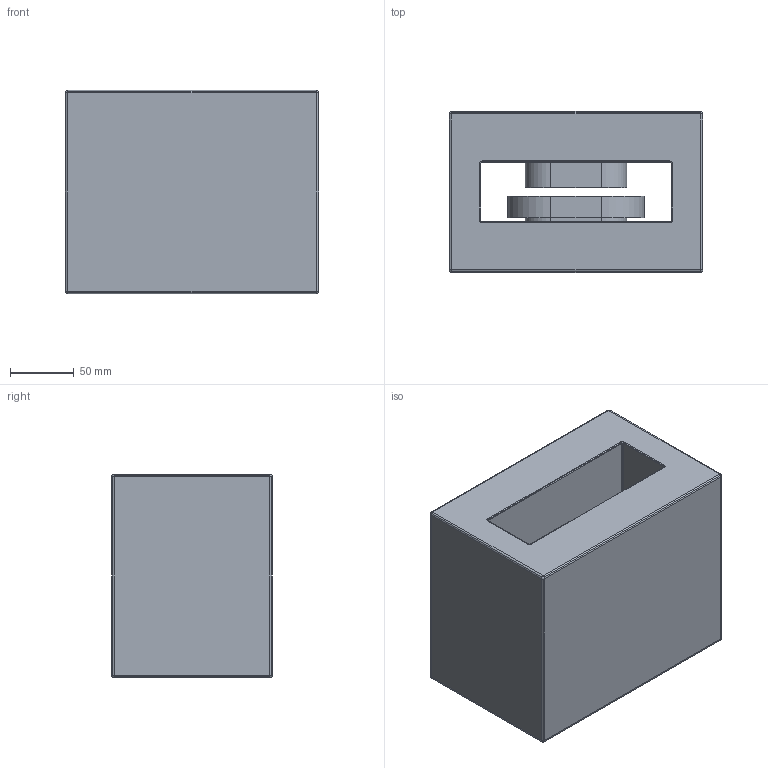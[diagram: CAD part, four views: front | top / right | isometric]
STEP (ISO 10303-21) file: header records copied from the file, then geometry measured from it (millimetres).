
FILE_DESCRIPTION(('STEP AP214'),'1');
FILE_NAME('2023-02-24_SWLS_Sirius_Prototype_Final_SideCoil_step.step','2023-02-27T13:48:30',(' '),(' '),'Spatial InterOp 3D',' ',' ');
FILE_SCHEMA(('AUTOMOTIVE_DESIGN { 1 0 10303 214 1 1 1 1 }'));
Length unit declared in the file: millimetre
Products named in the file (1): PoleInferior+PoleInferior Copy#1 Union#1,Body#1
Bounding box: 200 x 126.6 x 160 mm (x, y, z)
Volume: 3135353 mm3; surface area: 242016.5 mm2
Topology: 4 solids, 4 shells, 112 faces, 280 edges, 168 vertices
Faces by surface type: cylinder 64, plane 32, sphere 8, torus 8
Entity records: 3360 total; most frequent: DIRECTION 640, CARTESIAN_POINT 556, ORIENTED_EDGE 544, EDGE_CURVE 272, AXIS2_PLACEMENT_3D 252, VERTEX_POINT 168, CIRCLE 136, LINE 136
